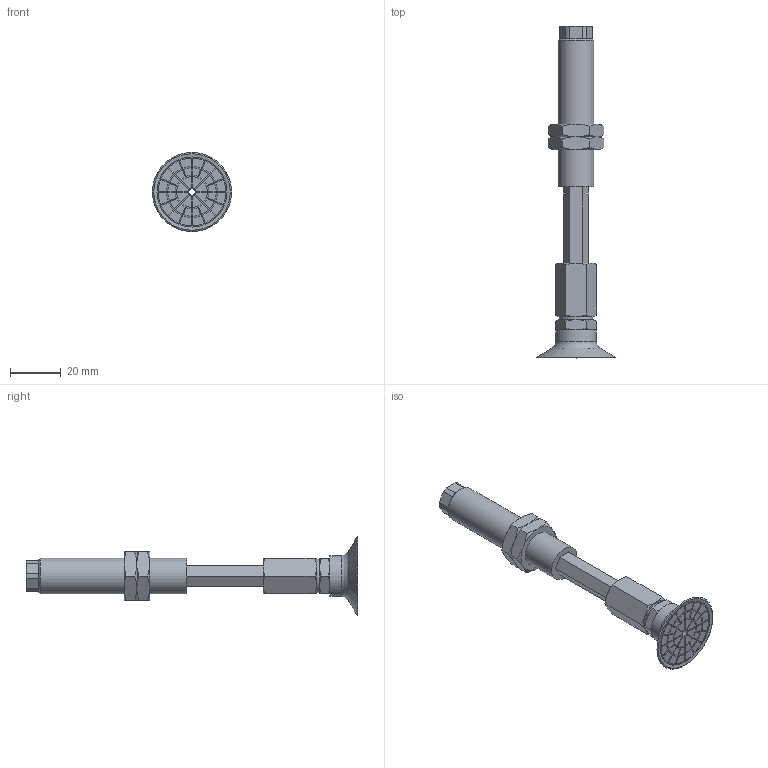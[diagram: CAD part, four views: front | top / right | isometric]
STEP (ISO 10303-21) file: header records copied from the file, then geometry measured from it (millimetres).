
FILE_DESCRIPTION(('STEP AP203'),'1');
FILE_NAME('.stp','2025-08-26T08:11:33',(' '),(' '),'Spatial InterOp 3D',' ',' ');
FILE_SCHEMA(('CONFIG_CONTROL_DESIGN'));
Length unit declared in the file: millimetre
Products named in the file (7): BNABPATH-30B-30-※; NAPATH-30-30--M; ADAPTER; Nut-25-S; NAPATH-30-30--F; TN-PA-30B-M6; BPAG-30B-※
Assembly tree (7 placements, depth 2):
  BNABPATH-30B-30-※
    NAPATH-30-30--M
    ADAPTER
    Nut-25-S  x2
    NAPATH-30-30--F
    TN-PA-30B-M6
    BPAG-30B-※
Bounding box: 31.04 x 130.2 x 31.04 mm (x, y, z)
Volume: 19794.2 mm3; surface area: 14985.1 mm2
Topology: 7 solids, 7 shells, 358 faces, 841 edges, 538 vertices
Faces by surface type: plane 197, cylinder 95, cone 60, torus 6
Full cylindrical faces by diameter (mm): 2.5 x1, 3 x3, 4.134 x1, 4.917 x1, 6 x3, 10 x2, 12.917 x2, 13 x1, 14 x1, 16 x1, 27.5 x1
Entity records: 10021 total; most frequent: CARTESIAN_POINT 1985, DIRECTION 1627, ORIENTED_EDGE 1508, EDGE_CURVE 754, AXIS2_PLACEMENT_3D 602, VERTEX_POINT 504, LINE 423, VECTOR 423
